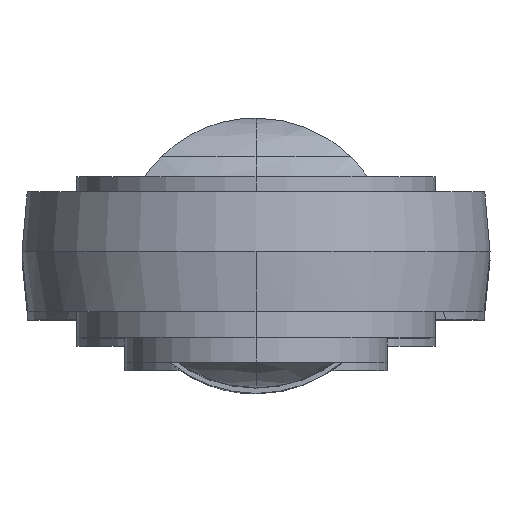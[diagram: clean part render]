
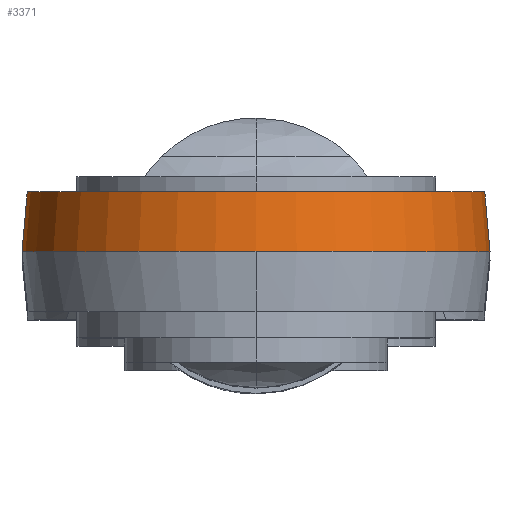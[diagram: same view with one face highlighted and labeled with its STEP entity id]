
A CAD part, top view. The second image highlights one B-rep face of the part: STEP entity #3371.
In plain terms, the highlighted conical face has half-angle 5 degrees and reference radius 62.5 mm.
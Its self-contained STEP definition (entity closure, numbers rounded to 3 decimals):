
#67 = ORIENTED_EDGE ( 'NONE', *, *, #2134, .T. ) ;
#191 = CIRCLE ( 'NONE', #314, 61.1 ) ;
#302 = AXIS2_PLACEMENT_3D ( 'NONE', #4130, #3747, #1937 ) ;
#314 = AXIS2_PLACEMENT_3D ( 'NONE', #1089, #2232, #792 ) ;
#320 = EDGE_CURVE ( 'NONE', #3591, #1841, #191, .T. ) ;
#341 = FACE_OUTER_BOUND ( 'NONE', #481, .T. ) ;
#413 = ORIENTED_EDGE ( 'NONE', *, *, #2611, .F. ) ;
#474 = CARTESIAN_POINT ( 'NONE',  ( -179.733, -382.5, 2263.073 ) ) ;
#481 = EDGE_LOOP ( 'NONE', ( #2003, #67, #413, #3539, #4443 ) ) ;
#792 = DIRECTION ( 'NONE',  ( 1., 0., 0. ) ) ;
#998 = CARTESIAN_POINT ( 'NONE',  ( -54.733, -382.5, 2263.073 ) ) ;
#1089 = CARTESIAN_POINT ( 'NONE',  ( -117.233, -366.5, 2263.073 ) ) ;
#1129 = VECTOR ( 'NONE', #1558, 1000. ) ;
#1194 = CONICAL_SURFACE ( 'NONE', #302, 62.5, 0.087 ) ;
#1346 = DIRECTION ( 'NONE',  ( 0., -1., 0. ) ) ;
#1382 = VERTEX_POINT ( 'NONE', #3445 ) ;
#1445 = CARTESIAN_POINT ( 'NONE',  ( -117.233, -382.5, 2325.573 ) ) ;
#1534 = CARTESIAN_POINT ( 'NONE',  ( -179.733, -382.5, 2263.073 ) ) ;
#1558 = DIRECTION ( 'NONE',  ( -0.087, -0.996, 0. ) ) ;
#1672 = VERTEX_POINT ( 'NONE', #1445 ) ;
#1738 = AXIS2_PLACEMENT_3D ( 'NONE', #2823, #1346, #2059 ) ;
#1841 = VERTEX_POINT ( 'NONE', #3566 ) ;
#1937 = DIRECTION ( 'NONE',  ( 1., 0., 0. ) ) ;
#2003 = ORIENTED_EDGE ( 'NONE', *, *, #320, .F. ) ;
#2059 = DIRECTION ( 'NONE',  ( 0., 0., -1. ) ) ;
#2134 = EDGE_CURVE ( 'NONE', #3591, #2730, #3652, .T. ) ;
#2189 = DIRECTION ( 'NONE',  ( 0., 0., -1. ) ) ;
#2232 = DIRECTION ( 'NONE',  ( 0., 1., 0. ) ) ;
#2481 = LINE ( 'NONE', #998, #3564 ) ;
#2611 = EDGE_CURVE ( 'NONE', #1672, #2730, #4040, .T. ) ;
#2730 = VERTEX_POINT ( 'NONE', #1534 ) ;
#2823 = CARTESIAN_POINT ( 'NONE',  ( -117.233, -382.5, 2263.073 ) ) ;
#2956 = CARTESIAN_POINT ( 'NONE',  ( -178.333, -366.5, 2263.073 ) ) ;
#3371 = ADVANCED_FACE ( 'NONE', ( #341 ), #1194, .T. ) ;
#3445 = CARTESIAN_POINT ( 'NONE',  ( -54.733, -382.5, 2263.073 ) ) ;
#3539 = ORIENTED_EDGE ( 'NONE', *, *, #4412, .F. ) ;
#3564 = VECTOR ( 'NONE', #3926, 1000. ) ;
#3566 = CARTESIAN_POINT ( 'NONE',  ( -56.133, -366.5, 2263.073 ) ) ;
#3591 = VERTEX_POINT ( 'NONE', #2956 ) ;
#3629 = CARTESIAN_POINT ( 'NONE',  ( -117.233, -382.5, 2263.073 ) ) ;
#3644 = DIRECTION ( 'NONE',  ( 0., -1., 0. ) ) ;
#3652 = LINE ( 'NONE', #474, #1129 ) ;
#3747 = DIRECTION ( 'NONE',  ( 0., -1., 0. ) ) ;
#3926 = DIRECTION ( 'NONE',  ( 0.087, -0.996, 0. ) ) ;
#4040 = CIRCLE ( 'NONE', #1738, 62.5 ) ;
#4130 = CARTESIAN_POINT ( 'NONE',  ( -117.233, -382.5, 2263.073 ) ) ;
#4131 = CIRCLE ( 'NONE', #4679, 62.5 ) ;
#4316 = EDGE_CURVE ( 'NONE', #1841, #1382, #2481, .T. ) ;
#4412 = EDGE_CURVE ( 'NONE', #1382, #1672, #4131, .T. ) ;
#4443 = ORIENTED_EDGE ( 'NONE', *, *, #4316, .F. ) ;
#4679 = AXIS2_PLACEMENT_3D ( 'NONE', #3629, #3644, #2189 ) ;
